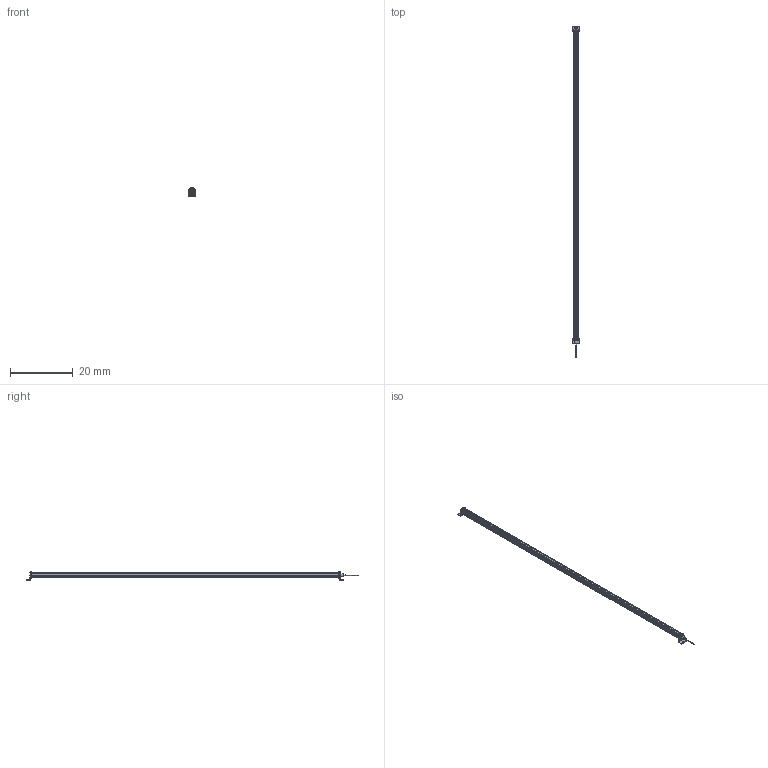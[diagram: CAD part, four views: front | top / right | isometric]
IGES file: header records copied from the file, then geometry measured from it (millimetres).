
Start section:  Autodesk DirectConnect version 7.0.27.0 ---- IGES version 5.3
Global section: file name: C:\ACADFILES\MG_PYLONS\CUSTOMER_FILES\MG-96-PYLON_3D_SMB.iges; native system: Autodesk DirectConnect 7.0.27.0; preprocessor: 7.0.27.0; author: ENGINEERMAIN; organization: Unknown; date: 20150810.144047; units: millimetre
Bounding box: 2.26 x 105.44 x 2.75 mm (x, y, z)
Surface area: 1475 mm2 (no closed solid volume)
Topology: 0 solids, 0 shells, 771 faces, 3970 edges, 3969 vertices
Faces by surface type: bspline 771
